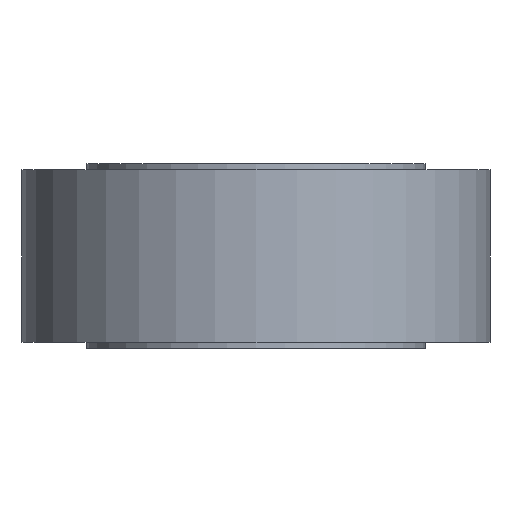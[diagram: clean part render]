
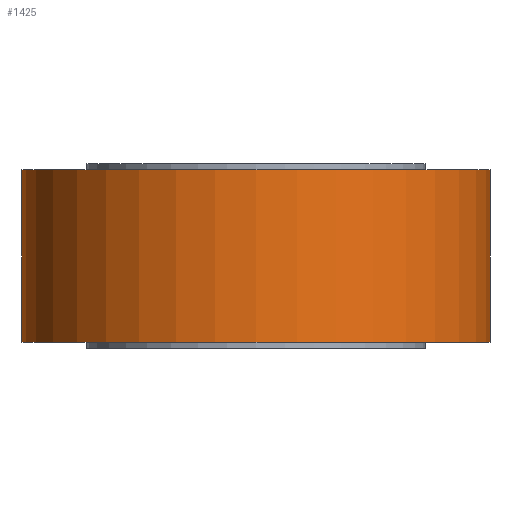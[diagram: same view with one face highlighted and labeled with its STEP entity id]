
A CAD part, front view. The second image highlights one B-rep face of the part: STEP entity #1425.
In plain terms, the highlighted cylindrical face has radius 37.95 mm (diameter 75.9 mm), a full revolution.
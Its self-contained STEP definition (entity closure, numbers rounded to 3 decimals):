
#30=B_SPLINE_CURVE_WITH_KNOTS('',3,(#2361,#2362,#2363,#2364,#2365,#2366,
#2367,#2368,#2369,#2370,#2371,#2372,#2373,#2374,#2375,#2376,#2377,#2378,
#2379),.UNSPECIFIED.,.F.,.F.,(4,2,2,2,3,2,2,2,4),(2.831,3.067,
3.302,3.538,3.774,4.01,4.246,
4.482,4.718),.UNSPECIFIED.);
#31=B_SPLINE_CURVE_WITH_KNOTS('',3,(#2380,#2381,#2382,#2383,#2384,#2385,
#2386,#2387,#2388,#2389,#2390,#2391,#2392,#2393,#2394,#2395,#2396,#2397),
 .UNSPECIFIED.,.F.,.F.,(4,2,2,2,2,2,2,2,4),(0.944,1.179,
1.415,1.651,1.887,2.123,2.359,
2.595,2.831),.UNSPECIFIED.);
#64=FACE_BOUND('',#228,.T.);
#133=FACE_OUTER_BOUND('',#227,.T.);
#227=EDGE_LOOP('',(#1034,#1035,#1036,#1037,#1038,#1039));
#228=EDGE_LOOP('',(#1040,#1041));
#316=LINE('',#2355,#384);
#384=VECTOR('',#1867,37.95);
#480=CIRCLE('',#1569,37.95);
#481=CIRCLE('',#1570,37.95);
#482=CIRCLE('',#1572,37.95);
#483=CIRCLE('',#1573,37.95);
#610=VERTEX_POINT('',#2349);
#611=VERTEX_POINT('',#2350);
#612=VERTEX_POINT('',#2354);
#613=VERTEX_POINT('',#2356);
#614=VERTEX_POINT('',#2359);
#615=VERTEX_POINT('',#2360);
#773=EDGE_CURVE('',#610,#611,#480,.T.);
#774=EDGE_CURVE('',#611,#610,#481,.T.);
#775=EDGE_CURVE('',#611,#612,#316,.T.);
#776=EDGE_CURVE('',#612,#613,#482,.T.);
#777=EDGE_CURVE('',#613,#612,#483,.T.);
#778=EDGE_CURVE('',#614,#615,#30,.T.);
#779=EDGE_CURVE('',#615,#614,#31,.T.);
#1034=ORIENTED_EDGE('',*,*,#773,.F.);
#1035=ORIENTED_EDGE('',*,*,#774,.F.);
#1036=ORIENTED_EDGE('',*,*,#775,.T.);
#1037=ORIENTED_EDGE('',*,*,#776,.T.);
#1038=ORIENTED_EDGE('',*,*,#777,.T.);
#1039=ORIENTED_EDGE('',*,*,#775,.F.);
#1040=ORIENTED_EDGE('',*,*,#778,.T.);
#1041=ORIENTED_EDGE('',*,*,#779,.T.);
#1380=CYLINDRICAL_SURFACE('',#1571,37.95);
#1425=ADVANCED_FACE('',(#133,#64),#1380,.T.);
#1569=AXIS2_PLACEMENT_3D('',#2351,#1861,#1862);
#1570=AXIS2_PLACEMENT_3D('',#2352,#1863,#1864);
#1571=AXIS2_PLACEMENT_3D('',#2353,#1865,#1866);
#1572=AXIS2_PLACEMENT_3D('',#2357,#1868,#1869);
#1573=AXIS2_PLACEMENT_3D('',#2358,#1870,#1871);
#1861=DIRECTION('center_axis',(0.,0.,1.));
#1862=DIRECTION('ref_axis',(1.,0.,0.));
#1863=DIRECTION('center_axis',(0.,0.,1.));
#1864=DIRECTION('ref_axis',(1.,0.,0.));
#1865=DIRECTION('center_axis',(0.,0.,1.));
#1866=DIRECTION('ref_axis',(1.,0.,0.));
#1867=DIRECTION('',(0.,0.,-1.));
#1868=DIRECTION('center_axis',(0.,0.,1.));
#1869=DIRECTION('ref_axis',(1.,0.,0.));
#1870=DIRECTION('center_axis',(0.,0.,1.));
#1871=DIRECTION('ref_axis',(1.,0.,0.));
#2349=CARTESIAN_POINT('',(37.95,0.,29.));
#2350=CARTESIAN_POINT('',(-37.95,0.,29.));
#2351=CARTESIAN_POINT('Origin',(0.,0.,29.));
#2352=CARTESIAN_POINT('Origin',(0.,0.,29.));
#2353=CARTESIAN_POINT('Origin',(0.,0.,15.));
#2354=CARTESIAN_POINT('',(-37.95,0.,1.));
#2355=CARTESIAN_POINT('',(-37.95,0.,15.));
#2356=CARTESIAN_POINT('',(37.95,0.,1.));
#2357=CARTESIAN_POINT('Origin',(0.,0.,1.));
#2358=CARTESIAN_POINT('Origin',(0.,0.,1.));
#2359=CARTESIAN_POINT('',(0.,37.95,8.75));
#2360=CARTESIAN_POINT('',(0.,37.95,21.25));
#2361=CARTESIAN_POINT('Ctrl Pts',(0.,37.95,8.75));
#2362=CARTESIAN_POINT('Ctrl Pts',(0.786,37.95,8.75));
#2363=CARTESIAN_POINT('Ctrl Pts',(1.624,37.923,8.907));
#2364=CARTESIAN_POINT('Ctrl Pts',(3.163,37.826,9.546));
#2365=CARTESIAN_POINT('Ctrl Pts',(3.865,37.757,10.026));
#2366=CARTESIAN_POINT('Ctrl Pts',(4.974,37.627,11.135));
#2367=CARTESIAN_POINT('Ctrl Pts',(5.454,37.557,11.837));
#2368=CARTESIAN_POINT('Ctrl Pts',(6.093,37.459,13.376));
#2369=CARTESIAN_POINT('Ctrl Pts',(6.25,37.432,14.214));
#2370=CARTESIAN_POINT('Ctrl Pts',(6.25,37.432,15.));
#2371=CARTESIAN_POINT('Ctrl Pts',(6.25,37.432,15.786));
#2372=CARTESIAN_POINT('Ctrl Pts',(6.093,37.459,16.624));
#2373=CARTESIAN_POINT('Ctrl Pts',(5.454,37.557,18.163));
#2374=CARTESIAN_POINT('Ctrl Pts',(4.974,37.627,18.865));
#2375=CARTESIAN_POINT('Ctrl Pts',(3.865,37.757,19.974));
#2376=CARTESIAN_POINT('Ctrl Pts',(3.163,37.826,20.454));
#2377=CARTESIAN_POINT('Ctrl Pts',(1.624,37.923,21.093));
#2378=CARTESIAN_POINT('Ctrl Pts',(0.786,37.95,21.25));
#2379=CARTESIAN_POINT('Ctrl Pts',(0.,37.95,21.25));
#2380=CARTESIAN_POINT('Ctrl Pts',(0.,37.95,21.25));
#2381=CARTESIAN_POINT('Ctrl Pts',(-0.786,37.95,21.25));
#2382=CARTESIAN_POINT('Ctrl Pts',(-1.624,37.923,21.093));
#2383=CARTESIAN_POINT('Ctrl Pts',(-3.163,37.826,20.454));
#2384=CARTESIAN_POINT('Ctrl Pts',(-3.865,37.757,19.974));
#2385=CARTESIAN_POINT('Ctrl Pts',(-4.974,37.627,18.865));
#2386=CARTESIAN_POINT('Ctrl Pts',(-5.454,37.557,18.163));
#2387=CARTESIAN_POINT('Ctrl Pts',(-6.093,37.459,16.624));
#2388=CARTESIAN_POINT('Ctrl Pts',(-6.25,37.432,15.786));
#2389=CARTESIAN_POINT('Ctrl Pts',(-6.25,37.432,14.214));
#2390=CARTESIAN_POINT('Ctrl Pts',(-6.093,37.459,13.376));
#2391=CARTESIAN_POINT('Ctrl Pts',(-5.454,37.557,11.837));
#2392=CARTESIAN_POINT('Ctrl Pts',(-4.974,37.627,11.135));
#2393=CARTESIAN_POINT('Ctrl Pts',(-3.865,37.757,10.026));
#2394=CARTESIAN_POINT('Ctrl Pts',(-3.163,37.826,9.546));
#2395=CARTESIAN_POINT('Ctrl Pts',(-1.624,37.923,8.907));
#2396=CARTESIAN_POINT('Ctrl Pts',(-0.786,37.95,8.75));
#2397=CARTESIAN_POINT('Ctrl Pts',(0.,37.95,8.75));
